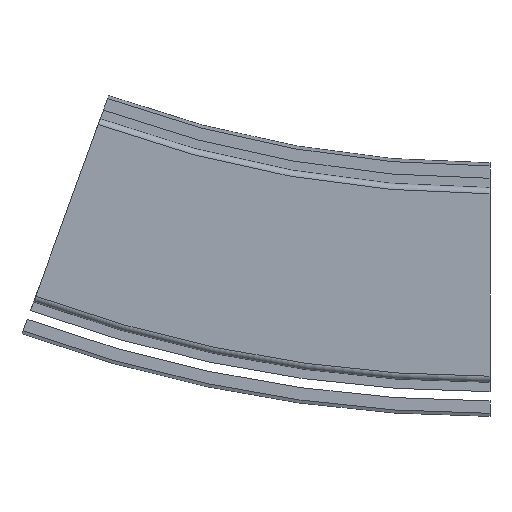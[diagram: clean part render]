
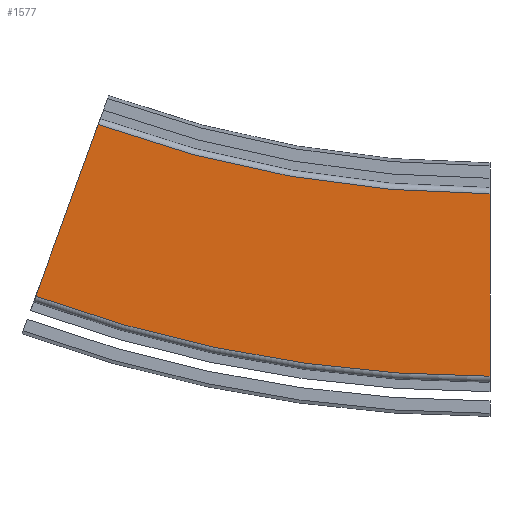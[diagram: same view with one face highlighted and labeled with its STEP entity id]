
A CAD part, left-side view. The second image highlights one B-rep face of the part: STEP entity #1577.
In plain terms, the highlighted planar face has unit normal (-1, 0, 0).
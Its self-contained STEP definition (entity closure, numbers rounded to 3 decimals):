
#126=PLANE('',#1712);
#200=FACE_OUTER_BOUND('',#292,.T.);
#292=EDGE_LOOP('',(#1300,#1301,#1302,#1303));
#360=CIRCLE('',#1711,370.5);
#361=CIRCLE('',#1713,429.5);
#464=LINE('',#7158,#590);
#465=LINE('',#7160,#591);
#590=VECTOR('',#2010,10.);
#591=VECTOR('',#2011,10.);
#750=VERTEX_POINT('',#7151);
#751=VERTEX_POINT('',#7153);
#752=VERTEX_POINT('',#7157);
#753=VERTEX_POINT('',#7159);
#950=EDGE_CURVE('',#750,#751,#360,.T.);
#951=EDGE_CURVE('',#752,#750,#464,.T.);
#952=EDGE_CURVE('',#753,#751,#465,.T.);
#953=EDGE_CURVE('',#752,#753,#361,.T.);
#1300=ORIENTED_EDGE('',*,*,#951,.T.);
#1301=ORIENTED_EDGE('',*,*,#950,.T.);
#1302=ORIENTED_EDGE('',*,*,#952,.F.);
#1303=ORIENTED_EDGE('',*,*,#953,.F.);
#1577=ADVANCED_FACE('',(#200),#126,.T.);
#1711=AXIS2_PLACEMENT_3D('',#7155,#2006,#2007);
#1712=AXIS2_PLACEMENT_3D('',#7156,#2008,#2009);
#1713=AXIS2_PLACEMENT_3D('',#7161,#2012,#2013);
#2006=DIRECTION('center_axis',(1.,0.,0.));
#2007=DIRECTION('ref_axis',(0.,0.,
-1.));
#2008=DIRECTION('center_axis',(-1.,0.,0.));
#2009=DIRECTION('ref_axis',(0.,0.,1.));
#2010=DIRECTION('',(0.,0.,1.));
#2011=DIRECTION('',(0.,-0.342,0.94));
#2012=DIRECTION('center_axis',(1.,0.,0.));
#2013=DIRECTION('ref_axis',(0.,0.,-1.));
#7151=CARTESIAN_POINT('',(-43.,0.,29.5));
#7153=CARTESIAN_POINT('',(-43.,126.718,51.844));
#7155=CARTESIAN_POINT('Origin',(-43.,0.,
400.));
#7156=CARTESIAN_POINT('Origin',(-43.,0.,-29.5));
#7157=CARTESIAN_POINT('',(-43.,0.,-29.5));
#7158=CARTESIAN_POINT('',(-43.,0.,-29.5));
#7159=CARTESIAN_POINT('',(-43.,146.898,-3.598));
#7160=CARTESIAN_POINT('',(-43.,146.898,-3.598));
#7161=CARTESIAN_POINT('Origin',(-43.,0.,
400.));
